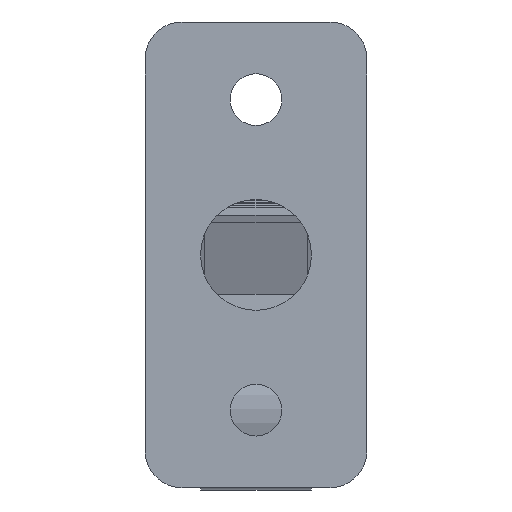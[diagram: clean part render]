
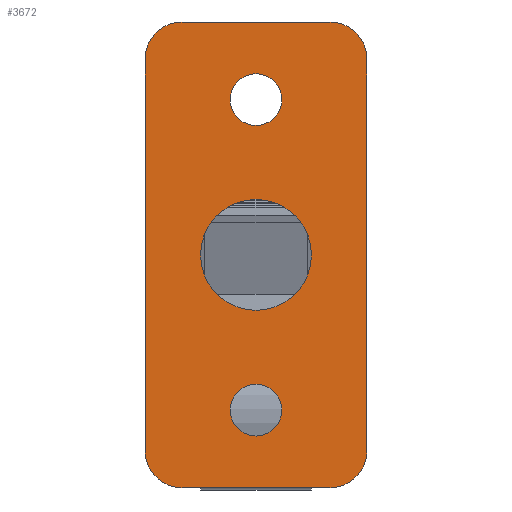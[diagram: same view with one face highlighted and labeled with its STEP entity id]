
A CAD part, front view. The second image highlights one B-rep face of the part: STEP entity #3672.
In plain terms, the highlighted planar face has unit normal (0, -1, 0).
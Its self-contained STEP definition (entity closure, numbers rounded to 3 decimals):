
#108 = LINE ( 'NONE', #6472, #1471 ) ;
#148 = ORIENTED_EDGE ( 'NONE', *, *, #4496, .F. ) ;
#240 = CARTESIAN_POINT ( 'NONE',  ( -7., -8., 42. ) ) ;
#250 = EDGE_CURVE ( 'NONE', #2955, #2718, #3963, .T. ) ;
#256 = AXIS2_PLACEMENT_3D ( 'NONE', #5268, #1746, #5847 ) ;
#261 = VECTOR ( 'NONE', #4210, 1000. ) ;
#349 = AXIS2_PLACEMENT_3D ( 'NONE', #626, #4721, #1206 ) ;
#391 = ORIENTED_EDGE ( 'NONE', *, *, #2247, .F. ) ;
#599 = FACE_BOUND ( 'NONE', #4065, .T. ) ;
#626 = CARTESIAN_POINT ( 'NONE',  ( 0., -8., 0. ) ) ;
#631 = EDGE_CURVE ( 'NONE', #5625, #5440, #6626, .T. ) ;
#677 = EDGE_CURVE ( 'NONE', #2851, #4983, #6285, .T. ) ;
#684 = ORIENTED_EDGE ( 'NONE', *, *, #1847, .F. ) ;
#779 = FACE_BOUND ( 'NONE', #5430, .T. ) ;
#870 = AXIS2_PLACEMENT_3D ( 'NONE', #4833, #1332, #5418 ) ;
#1024 = ORIENTED_EDGE ( 'NONE', *, *, #631, .T. ) ;
#1034 = CARTESIAN_POINT ( 'NONE',  ( 20., -8., -53. ) ) ;
#1036 = ORIENTED_EDGE ( 'NONE', *, *, #677, .F. ) ;
#1060 = EDGE_CURVE ( 'NONE', #4983, #6007, #3387, .T. ) ;
#1092 = AXIS2_PLACEMENT_3D ( 'NONE', #5103, #1581, #5679 ) ;
#1115 = CIRCLE ( 'NONE', #1536, 10. ) ;
#1120 = CARTESIAN_POINT ( 'NONE',  ( 0., -8., -42. ) ) ;
#1126 = DIRECTION ( 'NONE',  ( 1., 0., 0. ) ) ;
#1179 = AXIS2_PLACEMENT_3D ( 'NONE', #1120, #5216, #1701 ) ;
#1202 = CARTESIAN_POINT ( 'NONE',  ( -20., -8., 63. ) ) ;
#1206 = DIRECTION ( 'NONE',  ( -1., 0., 0. ) ) ;
#1266 = DIRECTION ( 'NONE',  ( 0., 0., 1. ) ) ;
#1332 = DIRECTION ( 'NONE',  ( 0., 1., 0. ) ) ;
#1373 = AXIS2_PLACEMENT_3D ( 'NONE', #5308, #1798, #5905 ) ;
#1471 = VECTOR ( 'NONE', #1266, 1000. ) ;
#1536 = AXIS2_PLACEMENT_3D ( 'NONE', #5552, #2036, #6108 ) ;
#1581 = DIRECTION ( 'NONE',  ( 0., 1., 0. ) ) ;
#1588 = CARTESIAN_POINT ( 'NONE',  ( -20., -8., -63. ) ) ;
#1619 = DIRECTION ( 'NONE',  ( 1., 0., 0. ) ) ;
#1701 = DIRECTION ( 'NONE',  ( -1., 0., 0. ) ) ;
#1746 = DIRECTION ( 'NONE',  ( 0., 1., 0. ) ) ;
#1798 = DIRECTION ( 'NONE',  ( 0., 1., 0. ) ) ;
#1802 = LINE ( 'NONE', #3591, #261 ) ;
#1847 = EDGE_CURVE ( 'NONE', #6007, #4985, #1802, .T. ) ;
#1869 = ORIENTED_EDGE ( 'NONE', *, *, #1060, .F. ) ;
#1965 = CARTESIAN_POINT ( 'NONE',  ( -30., -8., 53. ) ) ;
#2036 = DIRECTION ( 'NONE',  ( 0., 1., 0. ) ) ;
#2089 = CIRCLE ( 'NONE', #1373, 10. ) ;
#2104 = DIRECTION ( 'NONE',  ( 1., 0., 0. ) ) ;
#2247 = EDGE_CURVE ( 'NONE', #4985, #6198, #2089, .T. ) ;
#2251 = ORIENTED_EDGE ( 'NONE', *, *, #6769, .F. ) ;
#2399 = DIRECTION ( 'NONE',  ( 0., 1., 0. ) ) ;
#2452 = ORIENTED_EDGE ( 'NONE', *, *, #250, .T. ) ;
#2462 = CARTESIAN_POINT ( 'NONE',  ( 20., -8., -63. ) ) ;
#2472 = EDGE_CURVE ( 'NONE', #5440, #5625, #3010, .T. ) ;
#2543 = EDGE_CURVE ( 'NONE', #5872, #6115, #4381, .T. ) ;
#2594 = EDGE_CURVE ( 'NONE', #2718, #2955, #6684, .T. ) ;
#2718 = VERTEX_POINT ( 'NONE', #5521 ) ;
#2851 = VERTEX_POINT ( 'NONE', #6200 ) ;
#2859 = CARTESIAN_POINT ( 'NONE',  ( -15., -8., 0. ) ) ;
#2906 = ORIENTED_EDGE ( 'NONE', *, *, #6641, .F. ) ;
#2955 = VERTEX_POINT ( 'NONE', #2859 ) ;
#3010 = CIRCLE ( 'NONE', #256, 7. ) ;
#3015 = CARTESIAN_POINT ( 'NONE',  ( 0., -8., 42. ) ) ;
#3354 = EDGE_LOOP ( 'NONE', ( #391, #684, #1869, #1036, #2906, #3671, #148, #2251 ) ) ;
#3387 = CIRCLE ( 'NONE', #6297, 10. ) ;
#3396 = ORIENTED_EDGE ( 'NONE', *, *, #3426, .T. ) ;
#3426 = EDGE_CURVE ( 'NONE', #6115, #5872, #6995, .T. ) ;
#3483 = DIRECTION ( 'NONE',  ( 0., 0., -1. ) ) ;
#3591 = CARTESIAN_POINT ( 'NONE',  ( -20., -8., -63. ) ) ;
#3613 = DIRECTION ( 'NONE',  ( -1., 0., 0. ) ) ;
#3671 = ORIENTED_EDGE ( 'NONE', *, *, #4901, .F. ) ;
#3672 = ADVANCED_FACE ( 'NONE', ( #599, #3711, #779, #6573 ), #7384, .T. ) ;
#3682 = ORIENTED_EDGE ( 'NONE', *, *, #2472, .T. ) ;
#3689 = VECTOR ( 'NONE', #2104, 1000. ) ;
#3711 = FACE_OUTER_BOUND ( 'NONE', #3354, .T. ) ;
#3733 = VERTEX_POINT ( 'NONE', #1202 ) ;
#3963 = CIRCLE ( 'NONE', #349, 15. ) ;
#4060 = CARTESIAN_POINT ( 'NONE',  ( -20., -8., -53. ) ) ;
#4065 = EDGE_LOOP ( 'NONE', ( #7289, #3396 ) ) ;
#4210 = DIRECTION ( 'NONE',  ( -1., 0., 0. ) ) ;
#4381 = CIRCLE ( 'NONE', #4435, 7. ) ;
#4435 = AXIS2_PLACEMENT_3D ( 'NONE', #3015, #7006, #3613 ) ;
#4460 = CARTESIAN_POINT ( 'NONE',  ( 7., -8., -42. ) ) ;
#4496 = EDGE_CURVE ( 'NONE', #6988, #3733, #1115, .T. ) ;
#4541 = CARTESIAN_POINT ( 'NONE',  ( 20., -8., 63. ) ) ;
#4639 = DIRECTION ( 'NONE',  ( 0., -1., 0. ) ) ;
#4721 = DIRECTION ( 'NONE',  ( 0., 1., 0. ) ) ;
#4833 = CARTESIAN_POINT ( 'NONE',  ( 0., -8., 0. ) ) ;
#4889 = AXIS2_PLACEMENT_3D ( 'NONE', #4060, #4639, #1126 ) ;
#4901 = EDGE_CURVE ( 'NONE', #3733, #7358, #7055, .T. ) ;
#4943 = CARTESIAN_POINT ( 'NONE',  ( -30., -8., -53. ) ) ;
#4954 = VECTOR ( 'NONE', #3483, 1000. ) ;
#4983 = VERTEX_POINT ( 'NONE', #5685 ) ;
#4985 = VERTEX_POINT ( 'NONE', #1588 ) ;
#5103 = CARTESIAN_POINT ( 'NONE',  ( 0., -8., 42. ) ) ;
#5137 = DIRECTION ( 'NONE',  ( 0., 1., 0. ) ) ;
#5216 = DIRECTION ( 'NONE',  ( 0., 1., 0. ) ) ;
#5268 = CARTESIAN_POINT ( 'NONE',  ( 0., -8., -42. ) ) ;
#5308 = CARTESIAN_POINT ( 'NONE',  ( -20., -8., -53. ) ) ;
#5418 = DIRECTION ( 'NONE',  ( -1., 0., 0. ) ) ;
#5430 = EDGE_LOOP ( 'NONE', ( #5503, #2452 ) ) ;
#5440 = VERTEX_POINT ( 'NONE', #4460 ) ;
#5503 = ORIENTED_EDGE ( 'NONE', *, *, #2594, .T. ) ;
#5521 = CARTESIAN_POINT ( 'NONE',  ( 15., -8., 0. ) ) ;
#5552 = CARTESIAN_POINT ( 'NONE',  ( -20., -8., 53. ) ) ;
#5625 = VERTEX_POINT ( 'NONE', #7377 ) ;
#5679 = DIRECTION ( 'NONE',  ( -1., 0., 0. ) ) ;
#5685 = CARTESIAN_POINT ( 'NONE',  ( 30., -8., -53. ) ) ;
#5847 = DIRECTION ( 'NONE',  ( -1., 0., 0. ) ) ;
#5872 = VERTEX_POINT ( 'NONE', #6587 ) ;
#5902 = CARTESIAN_POINT ( 'NONE',  ( 20., -8., 53. ) ) ;
#5905 = DIRECTION ( 'NONE',  ( 1., 0., 0. ) ) ;
#6007 = VERTEX_POINT ( 'NONE', #2462 ) ;
#6108 = DIRECTION ( 'NONE',  ( -1., 0., 0. ) ) ;
#6115 = VERTEX_POINT ( 'NONE', #240 ) ;
#6178 = CARTESIAN_POINT ( 'NONE',  ( -20., -8., 63. ) ) ;
#6198 = VERTEX_POINT ( 'NONE', #4943 ) ;
#6200 = CARTESIAN_POINT ( 'NONE',  ( 30., -8., 53. ) ) ;
#6285 = LINE ( 'NONE', #7417, #4954 ) ;
#6297 = AXIS2_PLACEMENT_3D ( 'NONE', #1034, #5137, #1619 ) ;
#6385 = EDGE_LOOP ( 'NONE', ( #3682, #1024 ) ) ;
#6438 = DIRECTION ( 'NONE',  ( 1., 0., 0. ) ) ;
#6471 = CIRCLE ( 'NONE', #6950, 10. ) ;
#6472 = CARTESIAN_POINT ( 'NONE',  ( -30., -8., -53. ) ) ;
#6573 = FACE_BOUND ( 'NONE', #6385, .T. ) ;
#6587 = CARTESIAN_POINT ( 'NONE',  ( 7., -8., 42. ) ) ;
#6626 = CIRCLE ( 'NONE', #1179, 7. ) ;
#6641 = EDGE_CURVE ( 'NONE', #7358, #2851, #6471, .T. ) ;
#6684 = CIRCLE ( 'NONE', #870, 15. ) ;
#6769 = EDGE_CURVE ( 'NONE', #6198, #6988, #108, .T. ) ;
#6950 = AXIS2_PLACEMENT_3D ( 'NONE', #5902, #2399, #6438 ) ;
#6988 = VERTEX_POINT ( 'NONE', #1965 ) ;
#6995 = CIRCLE ( 'NONE', #1092, 7. ) ;
#7006 = DIRECTION ( 'NONE',  ( 0., 1., 0. ) ) ;
#7055 = LINE ( 'NONE', #6178, #3689 ) ;
#7289 = ORIENTED_EDGE ( 'NONE', *, *, #2543, .T. ) ;
#7358 = VERTEX_POINT ( 'NONE', #4541 ) ;
#7377 = CARTESIAN_POINT ( 'NONE',  ( -7., -8., -42. ) ) ;
#7384 = PLANE ( 'NONE',  #4889 ) ;
#7417 = CARTESIAN_POINT ( 'NONE',  ( 30., -8., -53. ) ) ;
